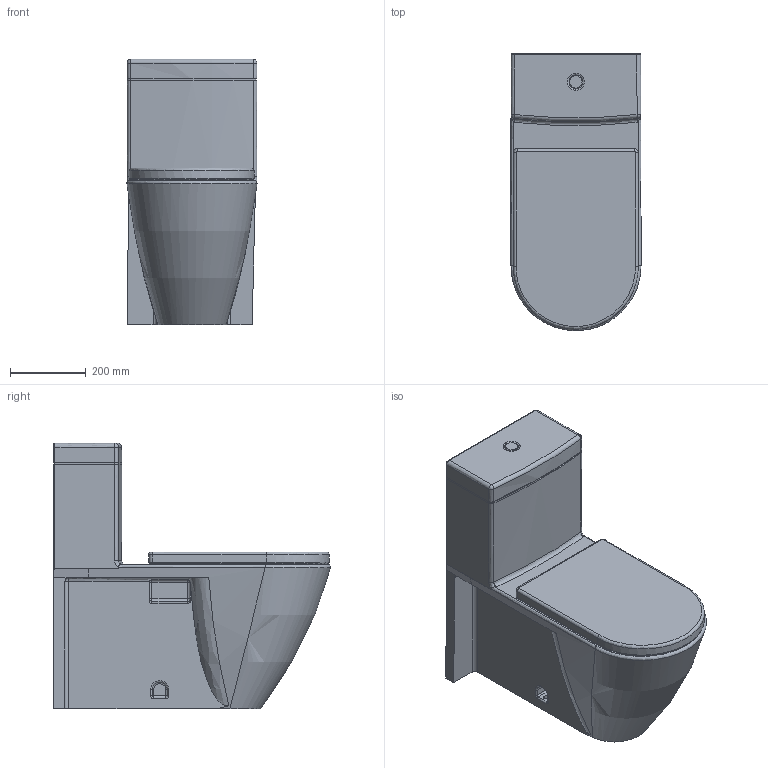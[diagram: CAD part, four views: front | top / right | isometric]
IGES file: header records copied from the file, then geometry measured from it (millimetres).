
Global section: file name: No Iges File Name specified; native system: Autodesk Inventor 2009; preprocessor: AutoDesk Inventor Iges Exporter R2009; author: Andreas; date: 20100303.090314; units: millimetre
Bounding box: 343.05 x 730.11 x 700 mm (x, y, z)
Volume: 67466988.4 mm3; surface area: 2072146.2 mm2
Topology: 3 solids, 3 shells, 247 faces, 613 edges, 375 vertices
Faces by surface type: bspline 68, plane 63, revolution 60, cylinder 33, torus 21, sphere 2
